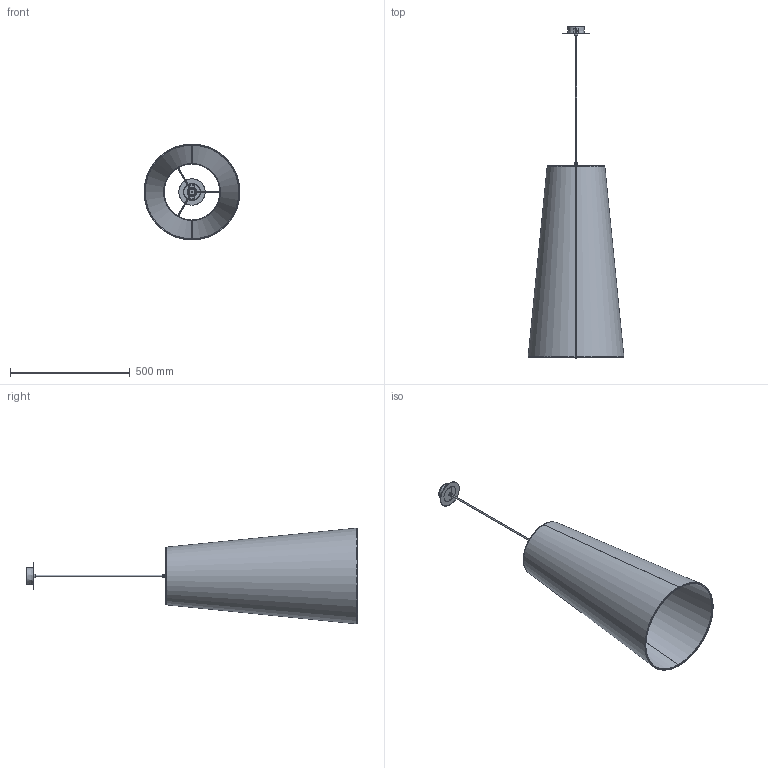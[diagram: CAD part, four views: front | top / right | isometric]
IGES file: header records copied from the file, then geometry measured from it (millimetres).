
Start section: SolidWorks IGES file using analytic representation for surfaces
Global section: file name: C:\SANTACOLE_PDM\Proyectos Catálogo\PROD-P16-019 -- GT-4\6_Técnico comercial\3D\GT4.IGS; native system: SolidWorks 2019; preprocessor: SolidWorks 2019; author: ana.pascual; date: 200406.090911; units: millimetre
Bounding box: 400 x 1383.61 x 400 mm (x, y, z)
Surface area: 1732697.2 mm2 (no closed solid volume)
Topology: 0 solids, 0 shells, 631 faces, 7785 edges, 7785 vertices
Faces by surface type: bspline 340, revolution 291
